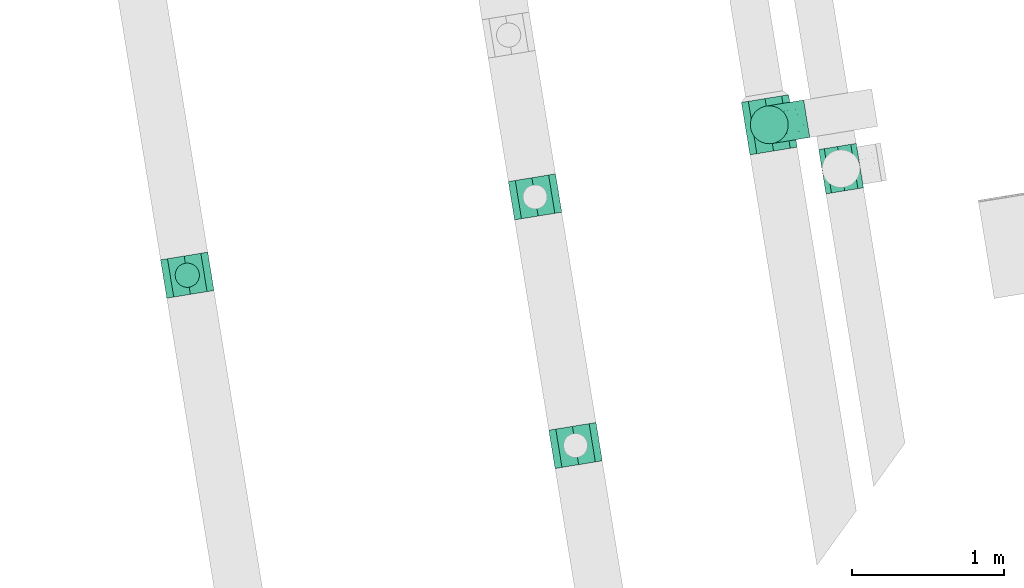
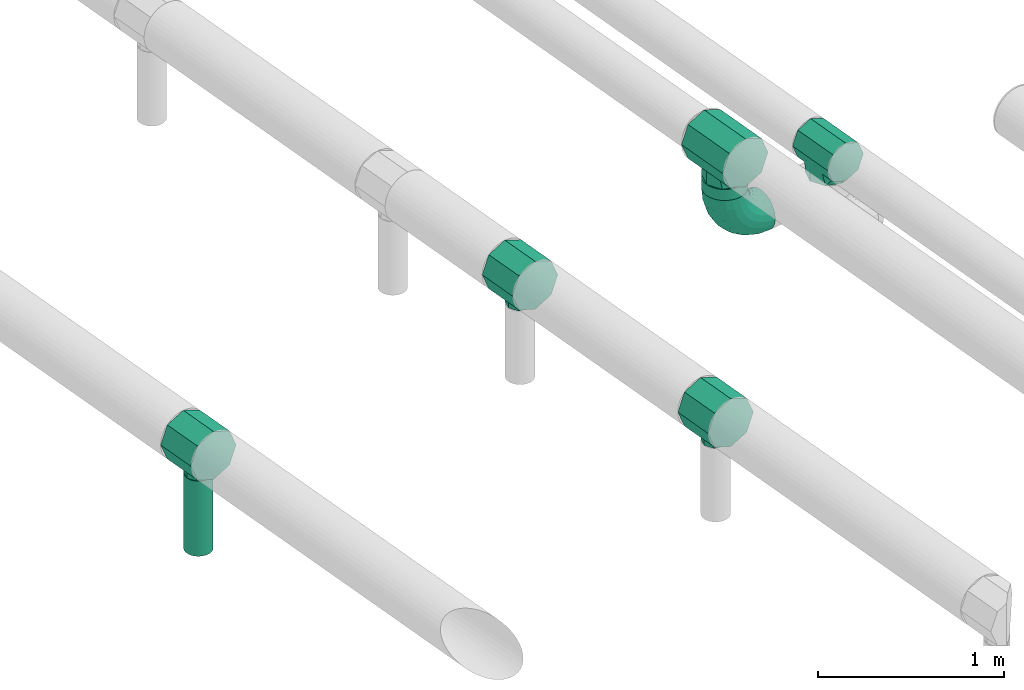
# One storey, part 3 of 15: 6 flow fittings, 2 flow segments.
"""IFC2X3 building model written with IfcOpenShell, lengths in millimetres."""

from ifc_helpers import new_model, entity, si_unit, converted_unit, derived_unit, direction, frame, origin, origin_with_axes, origin_2d_with_axis, place, context, subcontext, project, spatial, circle, extrude, faceted_brep, source, transform, mapped, material, type_object, element, save


model = new_model("IFC2X3")

# Units and contexts
model_context = context("Model", 3, precision=0.01, world=origin(), true_north=direction((6.12323399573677e-17, 1.0)))
plan_context = context("Plan", 3, precision=1e-05, world=origin_with_axes())
body_context = subcontext(model_context, "Body", "Model", "MODEL_VIEW")
ifc_project = project(units=[converted_unit("PLANEANGLEUNIT", "DEGREE", entity("IfcPositiveLengthMeasure", 0.0174532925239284), si_unit("PLANEANGLEUNIT", "RADIAN"), dimensions=[0, 0, 0, 0, 0, 0, 0]), si_unit("AREAUNIT", "SQUARE_METRE"), si_unit("LENGTHUNIT", "METRE", prefix="MILLI"), si_unit("MASSUNIT", "GRAM", prefix="KILO"), si_unit("POWERUNIT", "WATT"), si_unit("PRESSUREUNIT", "PASCAL", prefix="KILO"), si_unit("FORCEUNIT", "NEWTON", prefix="KILO"), si_unit("ELECTRICVOLTAGEUNIT", "VOLT"), si_unit("ELECTRICCURRENTUNIT", "AMPERE"), si_unit("THERMODYNAMICTEMPERATUREUNIT", "DEGREE_CELSIUS"), si_unit("TIMEUNIT", "SECOND"), si_unit("VOLUMEUNIT", "CUBIC_METRE"), derived_unit("LINEARVELOCITYUNIT", [(si_unit("LENGTHUNIT", "METRE"), 1), (si_unit("TIMEUNIT", "SECOND"), -1)]), derived_unit("VOLUMETRICFLOWRATEUNIT", [(si_unit("VOLUMEUNIT", "CUBIC_METRE"), 1), (si_unit("TIMEUNIT", "SECOND"), -1)]), derived_unit("THERMALTRANSMITTANCEUNIT", [(si_unit("POWERUNIT", "WATT"), 1), (si_unit("THERMODYNAMICTEMPERATUREUNIT", "KELVIN"), -1), (si_unit("AREAUNIT", "SQUARE_METRE"), -1)]), derived_unit("SOUNDPRESSUREUNIT", [(si_unit("PRESSUREUNIT", "PASCAL"), 1)])], contexts=[model_context, plan_context])

# Site, building, storey
site_placement = place(None, frame((5.09380697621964e-08, 5.80416781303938e-08, 0.0), z_axis=(0.0, 0.0, 1.0), x_axis=(-0.160806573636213, 0.986985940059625, 0.0)))
site = spatial("IfcSite", under=ifc_project, at=site_placement, Name="Default", CompositionType="ELEMENT")
building_placement = place(site_placement, frame((0.0, 0.0, 0.0), z_axis=(0.0, 0.0, 1.0), x_axis=(1.0, -2.77555756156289e-17, 0.0)))
building = spatial("IfcBuilding", under=site, at=building_placement, Name="Bygning (endres i Project Information)", CompositionType="ELEMENT")
storey_placement = place(building_placement, frame((0.0, 0.0, 51360.0000000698), z_axis=(0.0, 0.0, 1.0), x_axis=(1.0, -2.77555756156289e-17, 0.0)))
storey = spatial("IfcBuildingStorey", under=building, at=storey_placement, Name="H01-Nivå D+0,36", CompositionType="ELEMENT", Elevation=51360.0000000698)

# Flow fittings
ifc_material_1 = material(Name="DF_Material1")
duct_fitting_type_1 = type_object("IfcDuctFittingType", Name="Lindab TCPU:TCPU", PredefinedType="NOTDEFINED", material=ifc_material_1)
shared_shape_1 = source(origin(), body_context, "Body", "Brep", [
    faceted_brep([(56.5685425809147, 182.0, 56.5685425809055), (80.0000001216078, 182.0, 0.0), (56.568542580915, 182.0, -56.568542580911), (0.0, 182.0, -80.0000001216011), (-56.568542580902, 182.0, -56.5685425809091), (-80.0000001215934, 182.0, 0.0), (-56.5685425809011, 182.0, 56.5685425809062), (0.0, 182.0, 80.0000001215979), (-51.4669231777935, 145.103736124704, 61.2466802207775), (0.0, 135.66963571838, 80.0000001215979), (-80.0000001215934, 157.500000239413, 0.0), (-61.1597016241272, 148.817872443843, -51.5702522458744), (0.0, 135.669635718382, -80.0000001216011), (51.4669231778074, 145.103736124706, -61.2466802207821), (80.0000001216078, 157.500000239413, 0.0), (61.1652823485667, 148.820166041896, 51.5636330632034), (-128.0, 0.0, -157.500000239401), (-128.0, -111.369318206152, -111.369318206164), (-128.0, -157.500000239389, 0.0), (-128.0, -111.369318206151, 111.369318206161), (-128.0, 0.0, 157.500000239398), (-128.0, 111.369318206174, 111.36931820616), (-128.0, 134.434659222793, 55.6846591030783), (-128.0, 157.500000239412, 0.0), (-128.0, 134.434659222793, -55.6846591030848), (-128.0, 111.369318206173, -111.369318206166), (128.0, 157.500000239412, 0.0), (128.0, 134.434659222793, 55.6846591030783), (128.0, 111.369318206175, 111.36931820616), (128.0, 0.0, 157.500000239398), (128.0, -111.36931820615, 111.369318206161), (128.0, -157.500000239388, 0.0), (128.0, -111.369318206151, -111.369318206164), (128.0, 0.0, -157.500000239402), (128.0, 111.369318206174, -111.369318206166), (128.0, 134.434659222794, -55.6846591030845)], [[[0, 1, 2, 3, 4, 5, 6, 7]], [[7, 8, 9]], [[6, 8, 7]], [[5, 10, 6]], [[8, 6, 10]], [[4, 10, 5]], [[11, 10, 4]], [[4, 3, 11]], [[12, 11, 3]], [[3, 13, 12]], [[2, 13, 3]], [[1, 14, 2]], [[13, 2, 14]], [[0, 14, 1]], [[15, 14, 0]], [[0, 7, 15]], [[9, 15, 7]], [[16, 17, 18, 19, 20, 21, 22, 23, 24, 25]], [[26, 27, 28, 29, 30, 31, 32, 33, 34, 35]], [[30, 29, 20, 19]], [[18, 31, 30, 19]], [[18, 17, 32, 31]], [[16, 33, 32, 17]], [[25, 34, 33, 16]], [[12, 34, 25]], [[11, 12, 25]], [[12, 13, 34]], [[13, 14, 35]], [[26, 35, 14]], [[24, 23, 11, 25]], [[23, 10, 11]], [[35, 34, 13]], [[15, 26, 14]], [[8, 10, 22]], [[22, 21, 8]], [[15, 28, 27, 26]], [[28, 9, 21]], [[29, 28, 21, 20]], [[8, 21, 9]], [[10, 23, 22]], [[28, 15, 9]]]),
])
flow_fitting_1_placement = place(storey_placement, frame((999731.859892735, -343179.24363092, 3804.40000000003), z_axis=(-2.77555756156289e-17, -1.0, 0.0), x_axis=(-1.0, 2.77555756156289e-17, 0.0)))
element("IfcFlowFitting", 1, at=flow_fitting_1_placement, inside=storey, type_object=duct_fitting_type_1, material=ifc_material_1, Name="Lindab TCPU:TCPU", ObjectType="Lindab TCPU:TCPU", context=body_context, shape_type="MappedRepresentation", body=[
    mapped(shared_shape_1, transform((0.0, 0.0, 0.0), scale=1.0)),
])
duct_fitting_type_2 = type_object("IfcDuctFittingType", Name="Lindab TCPU:TCPU", PredefinedType="NOTDEFINED", material=ifc_material_1)
shared_shape_2 = source(origin(), body_context, "Body", "Brep", [
    faceted_brep([(-97.5961175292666, 0.0, -125.000000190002), (-44.4919847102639, 44.4919847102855, -116.813797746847), (0.0, 0.0, -125.000000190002), (-116.363856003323, 116.363856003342, -45.6558108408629), (-148.0, 106.694173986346, -44.1941738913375), (-125.000000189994, 125.000000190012, 0.0), (-148.0, 0.0, -125.000000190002), (-148.0, 88.3883477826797, -88.3883477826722), (-85.4880923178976, 85.4880923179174, -91.1964150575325), (-148.0, 125.000000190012, 0.0), (148.0, 106.694173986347, -44.1941738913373), (125.000000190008, 125.000000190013, 0.0), (148.0, 125.000000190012, 0.0), (-148.0, 106.694173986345, 44.1941738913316), (-110.210392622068, 110.210392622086, 58.9802458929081), (-97.5961244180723, 0.0, 125.000000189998), (-48.798062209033, 0.0, 125.000000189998), (0.0, 0.0, 125.000000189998), (-33.5365138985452, 33.5365138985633, 120.417200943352), (148.0, 106.694173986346, 44.1941738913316), (-148.0, 88.3883477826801, 88.388347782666), (-75.8331549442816, 75.8331549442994, 99.3696767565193), (-148.0, 0.0, 125.000000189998), (0.0, 150.0, -125.000000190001), (-88.3883477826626, 150.0, -88.3883477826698), (-106.694173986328, 150.0, -44.1941738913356), (-125.000000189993, 150.0, 0.0), (-106.694173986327, 150.0, 44.1941738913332), (-88.3883477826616, 150.0, 88.3883477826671), (0.0, 150.0, 125.000000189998), (88.3883477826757, 150.0, 88.388347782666), (106.694173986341, 150.0, 44.1941738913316), (125.000000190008, 150.0, 0.0), (106.694173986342, 150.0, -44.1941738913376), (88.3883477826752, 150.0, -88.3883477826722), (0.0, 48.7980713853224, 125.000000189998), (0.0, 97.5961191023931, 125.000000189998), (0.0, 97.5961234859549, -125.000000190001), (0.0, 48.7980562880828, -125.000000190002), (33.5365138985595, 33.5365138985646, -120.417200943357), (110.210392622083, 110.210392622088, -58.9802458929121), (75.8331549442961, 75.8331549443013, -99.3696767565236), (116.363856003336, 116.363856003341, 45.6558108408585), (44.4919847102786, 44.4919847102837, 116.813797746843), (85.4880923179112, 85.4880923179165, 91.1964150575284), (-148.0, -88.3883477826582, -88.3883477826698), (-148.0, -125.000000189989, 0.0), (-148.0, -88.3883477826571, 88.3883477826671), (148.0, 88.3883477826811, 88.388347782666), (148.0, 0.0, 125.000000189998), (148.0, -88.3883477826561, 88.3883477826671), (148.0, -125.000000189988, 0.0), (148.0, -88.3883477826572, -88.3883477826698), (148.0, 0.0, -125.000000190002), (148.0, 88.3883477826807, -88.3883477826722), (97.5961165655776, 0.0, 125.000000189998), (48.7980576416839, 0.0, -125.000000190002), (97.5961133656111, 0.0, -125.000000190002)], [[[0, 1, 2]], [[3, 4, 5]], [[6, 7, 0]], [[7, 8, 0]], [[4, 9, 5]], [[10, 11, 12]], [[1, 0, 8]], [[3, 7, 4]], [[8, 7, 3]], [[5, 13, 14]], [[15, 16, 17, 18]], [[13, 5, 9]], [[19, 12, 11]], [[20, 21, 14]], [[21, 22, 15]], [[13, 20, 14]], [[20, 22, 21]], [[15, 18, 21]], [[23, 24, 25, 26, 27, 28, 29, 30, 31, 32, 33, 34]], [[35, 36, 18, 17]], [[14, 27, 5]], [[28, 21, 29]], [[21, 36, 29]], [[27, 26, 5]], [[18, 36, 21]], [[14, 28, 27]], [[21, 28, 14]], [[5, 25, 3]], [[1, 37, 38, 2]], [[25, 5, 26]], [[24, 8, 3]], [[37, 24, 23]], [[25, 24, 3]], [[8, 24, 37]], [[37, 1, 8]], [[38, 37, 39, 2]], [[40, 33, 11]], [[34, 41, 23]], [[41, 37, 23]], [[33, 32, 11]], [[39, 37, 41]], [[40, 34, 33]], [[41, 34, 40]], [[11, 31, 42]], [[43, 36, 35, 17]], [[31, 11, 32]], [[30, 44, 42]], [[36, 30, 29]], [[31, 30, 42]], [[44, 30, 36]], [[36, 43, 44]], [[6, 45, 46, 47, 22, 20, 13, 9, 4, 7]], [[12, 19, 48, 49, 50, 51, 52, 53, 54, 10]], [[47, 50, 49, 55, 17, 16, 15, 22]], [[46, 51, 50, 47]], [[46, 45, 52, 51]], [[52, 45, 6, 0, 2, 56, 57, 53]], [[57, 39, 41]], [[54, 53, 41]], [[56, 2, 39, 57]], [[41, 53, 57]], [[10, 54, 40]], [[11, 10, 40]], [[41, 40, 54]], [[42, 48, 19]], [[43, 55, 44]], [[42, 44, 48]], [[48, 44, 55]], [[49, 48, 55]], [[55, 43, 17]], [[42, 19, 11]]]),
])
flow_fitting_2_placement = place(storey_placement, frame((999731.859892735, -347544.675938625, 3804.40000000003), z_axis=(-2.77555756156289e-17, -1.0, 0.0), x_axis=(-1.0, 2.77555756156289e-17, 0.0)))
element("IfcFlowFitting", 2, at=flow_fitting_2_placement, inside=storey, type_object=duct_fitting_type_2, material=ifc_material_1, Name="Lindab TCPU:TCPU", ObjectType="Lindab TCPU:TCPU", context=body_context, shape_type="MappedRepresentation", body=[
    mapped(shared_shape_2, transform((0.0, 0.0, 0.0), scale=1.0)),
])
duct_fitting_type_3 = type_object("IfcDuctFittingType", Name="Lindab TCPU:TCPU", PredefinedType="NOTDEFINED", material=ifc_material_1)
shared_shape_3 = source(origin(), body_context, "Body", "Brep", [
    faceted_brep([(80.0000001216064, -182.0, 0.0), (56.5685425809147, -182.0, 56.5685425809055), (0.0, -182.0, 80.0000001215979), (-56.5685425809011, -182.0, 56.5685425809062), (-80.0000001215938, -182.0, 0.0), (-56.568542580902, -182.0, -56.5685425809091), (0.0, -182.0, -80.0000001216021), (56.568542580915, -182.0, -56.568542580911), (-61.1652823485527, -148.820166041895, 51.5636330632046), (0.0, -135.66963571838, 80.0000001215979), (-80.0000001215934, -157.500000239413, 0.0), (-51.4607662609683, -145.101552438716, -61.2518534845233), (0.0, -135.669635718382, -80.0000001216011), (61.1652823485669, -148.820166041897, -51.5636330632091), (80.0000001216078, -157.500000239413, 0.0), (51.4669231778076, -145.103736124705, 61.2466802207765), (-128.0, -157.500000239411, 0.0), (-128.0, -134.434659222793, 55.6846591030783), (-128.0, -111.369318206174, 111.36931820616), (-128.0, 0.0, 157.500000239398), (-128.0, 111.369318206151, 111.369318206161), (-128.0, 157.500000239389, 0.0), (-128.0, 111.369318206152, -111.369318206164), (-128.0, 0.0, -157.500000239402), (-128.0, -111.369318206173, -111.369318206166), (-128.0, -134.434659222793, -55.6846591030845), (128.0, 0.0, -157.500000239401), (128.0, 111.369318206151, -111.369318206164), (128.0, 157.500000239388, 0.0), (128.0, 111.36931820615, 111.369318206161), (128.0, 0.0, 157.500000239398), (128.0, -111.369318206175, 111.36931820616), (128.0, -134.434659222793, 55.6846591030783), (128.0, -157.500000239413, 0.0), (128.0, -134.434659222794, -55.6846591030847), (128.0, -111.369318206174, -111.369318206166)], [[[0, 1, 2, 3, 4, 5, 6, 7]], [[2, 8, 3]], [[8, 2, 9]], [[10, 4, 3]], [[10, 3, 8]], [[10, 5, 4]], [[5, 10, 11]], [[11, 12, 6]], [[11, 6, 5]], [[6, 13, 7]], [[13, 6, 12]], [[14, 0, 7]], [[14, 7, 13]], [[14, 1, 0]], [[1, 14, 15]], [[15, 9, 2]], [[15, 2, 1]], [[16, 17, 18, 19, 20, 21, 22, 23, 24, 25]], [[26, 27, 28, 29, 30, 31, 32, 33, 34, 35]], [[20, 19, 30, 29]], [[29, 28, 21, 20]], [[28, 27, 22, 21]], [[27, 26, 23, 22]], [[26, 35, 24, 23]], [[24, 35, 12]], [[24, 12, 11]], [[35, 13, 12]], [[13, 33, 14]], [[33, 13, 35, 34]], [[10, 16, 25]], [[11, 25, 24]], [[10, 25, 11]], [[14, 32, 15]], [[16, 10, 8]], [[16, 8, 18, 17]], [[33, 32, 14]], [[9, 15, 31]], [[31, 15, 32]], [[19, 18, 31, 30]], [[31, 18, 9]], [[18, 8, 9]]]),
])
for number, where, z_axis, x_axis in (
    (3, (998212.558907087, -345524.100723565, 3804.29489743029), (2.77555756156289e-17, 1.0, 0.0), (-1.0, 2.77555756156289e-17, 0.0)),
    (4, (999872.558907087, -345524.100723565, 3804.29489743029), (2.77555756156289e-17, 1.0, 0.0), (-1.0, 2.77555756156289e-17, 0.0)),
):
    element("IfcFlowFitting", number, at=place(storey_placement, frame(where, z_axis=z_axis, x_axis=x_axis)), inside=storey, type_object=duct_fitting_type_3, material=ifc_material_1, Name="Lindab TCPU:TCPU", ObjectType="Lindab TCPU:TCPU", context=body_context, shape_type="MappedRepresentation", body=[
        mapped(shared_shape_3, transform((0.0, 0.0, 0.0), scale=1.0)),
    ])
duct_fitting_type_4 = type_object("IfcDuctFittingType", Name="Lindab TCPU:TCPU", PredefinedType="NOTDEFINED", material=ifc_material_1)
shared_shape_4 = source(origin(), body_context, "Body", "Brep", [
    faceted_brep([(125.000000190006, -182.0, 0.0), (88.3883477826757, -182.0, 88.388347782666), (0.0, -182.0, 125.000000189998), (-88.3883477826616, -182.0, 88.3883477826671), (-125.000000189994, -182.0, 0.0), (-88.3883477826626, -182.0, -88.3883477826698), (0.0, -182.0, -125.000000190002), (88.3883477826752, -182.0, -88.3883477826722), (-94.7906485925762, -134.783222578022, 81.4845567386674), (0.0, -95.8188396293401, 125.000000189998), (-125.000000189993, -157.500000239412, 0.0), (-109.895324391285, -146.141611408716, 40.7422783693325), (-102.490116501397, -141.156104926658, -48.0316624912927), (-79.9802328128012, -124.812209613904, -96.0633249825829), (0.0, -95.8188396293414, -125.000000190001), (94.7906485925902, -134.783222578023, -81.4845567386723), (125.000000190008, -157.500000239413, 0.0), (109.895324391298, -146.141611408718, -40.7422783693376), (102.486054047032, -141.153501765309, 48.0350445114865), (79.9721079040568, -124.807003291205, 96.0700890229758), (-175.0, -157.500000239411, 0.0), (-175.0, -134.434659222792, 55.6846591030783), (-175.0, -111.369318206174, 111.36931820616), (-175.0, 0.0, 157.500000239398), (-175.0, 111.369318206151, 111.369318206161), (-175.0, 157.500000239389, 0.0), (-175.0, 111.369318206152, -111.369318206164), (-175.0, 0.0, -157.500000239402), (-175.0, -111.369318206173, -111.369318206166), (-175.0, -134.434659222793, -55.6846591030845), (175.0, 0.0, -157.500000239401), (175.0, 111.369318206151, -111.369318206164), (175.0, 157.500000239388, 0.0), (175.0, 111.36931820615, 111.369318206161), (175.0, 0.0, 157.500000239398), (175.0, -111.369318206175, 111.36931820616), (175.0, -134.434659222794, 55.6846591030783), (175.0, -157.500000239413, 0.0), (175.0, -134.434659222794, -55.6846591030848), (175.0, -111.369318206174, -111.369318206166)], [[[0, 1, 2, 3, 4, 5, 6, 7]], [[2, 8, 3]], [[8, 2, 9]], [[10, 4, 3]], [[3, 8, 11, 10]], [[4, 10, 5]], [[5, 10, 12, 13]], [[13, 14, 6]], [[13, 6, 5]], [[6, 15, 7]], [[15, 6, 14]], [[16, 0, 7]], [[7, 15, 17, 16]], [[0, 16, 1]], [[1, 16, 18, 19]], [[19, 9, 2]], [[19, 2, 1]], [[20, 21, 22, 23, 24, 25, 26, 27, 28, 29]], [[30, 31, 32, 33, 34, 35, 36, 37, 38, 39]], [[23, 34, 33, 24]], [[33, 32, 25, 24]], [[32, 31, 26, 25]], [[31, 30, 27, 26]], [[30, 39, 14]], [[27, 14, 28]], [[14, 27, 30]], [[13, 28, 14]], [[14, 39, 15]], [[38, 17, 15]], [[17, 37, 16]], [[29, 13, 12]], [[20, 29, 12]], [[15, 39, 38]], [[37, 17, 38]], [[13, 29, 28]], [[20, 12, 10]], [[37, 18, 16]], [[8, 21, 11]], [[36, 19, 18]], [[11, 20, 10]], [[20, 11, 21]], [[36, 18, 37]], [[9, 19, 35]], [[35, 19, 36]], [[9, 35, 34]], [[22, 9, 23]], [[22, 8, 9]], [[23, 9, 34]], [[8, 22, 21]]]),
])
flow_fitting_3_placement = place(storey_placement, frame((1000093.18735498, -347124.100724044, 3804.29489743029), z_axis=(-2.77555756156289e-17, -1.0, 0.0), x_axis=(1.0, -2.77555756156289e-17, 0.0)))
element("IfcFlowFitting", 5, at=flow_fitting_3_placement, inside=storey, type_object=duct_fitting_type_4, material=ifc_material_1, Name="Lindab TCPU:TCPU", ObjectType="Lindab TCPU:TCPU", context=body_context, shape_type="MappedRepresentation", body=[
    mapped(shared_shape_4, transform((0.0, 0.0, 0.0), scale=1.0)),
])
ifc_material_2 = material(Name="3601.001 Avtrekk")
duct_fitting_type_5 = type_object("IfcDuctFittingType", Name="magicirc_elbow_full_radius_NOR:magicirc_elbow_full_radius_NOR", PredefinedType="NOTDEFINED", material=ifc_material_2)
shared_shape_5 = source(origin(), body_context, "Body", "Brep", [
    faceted_brep([(-166.554650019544, -115.597967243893, 0.0), (-167.916018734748, -109.633421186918, 38.6271243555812), (-250.000000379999, -118.882064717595, 38.6271243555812), (-250.000000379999, -125.00000019, 0.0), (-171.866864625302, -92.3236343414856, 73.473156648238), (-250.000000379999, -101.127124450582, 73.473156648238), (-178.020451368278, -65.3630092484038, 101.127124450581), (-250.000000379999, -73.4731566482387, 101.127124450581), (-185.774423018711, -31.3906397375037, 118.882064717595), (-250.000000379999, -38.6271243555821, 118.882064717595), (-194.369766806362, 6.26802196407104, 125.00000019), (-250.000000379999, 0.0, 125.00000019), (-202.965110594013, 43.9266836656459, 118.882064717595), (-250.000000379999, 38.6271243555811, 118.882064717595), (-210.719082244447, 77.8990531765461, 101.127124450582), (-250.000000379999, 73.4731566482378, 101.127124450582), (-216.872668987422, 104.859678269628, 73.4731566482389), (-250.000000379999, 101.127124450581, 73.4731566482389), (-220.823514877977, 122.169465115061, 38.6271243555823), (-250.000000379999, 118.882064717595, 38.6271243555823), (-222.184883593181, 128.134011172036, 0.0), (-250.000000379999, 125.00000019, 0.0), (-220.823514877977, 122.169465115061, -38.6271243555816), (-250.000000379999, 118.882064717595, -38.6271243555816), (-216.872668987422, 104.859678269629, -73.4731566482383), (-250.000000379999, 101.127124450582, -73.4731566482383), (-210.719082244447, 77.8990531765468, -101.127124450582), (-250.000000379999, 73.4731566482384, -101.127124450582), (-202.965110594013, 43.9266836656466, -118.882064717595), (-250.000000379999, 38.6271243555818, -118.882064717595), (-194.369766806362, 6.26802196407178, -125.00000019), (-250.000000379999, 0.0, -125.00000019), (-185.774423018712, -31.3906397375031, -118.882064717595), (-250.000000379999, -38.6271243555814, -118.882064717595), (-178.020451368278, -65.3630092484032, -101.127124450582), (-250.000000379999, -73.4731566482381, -101.127124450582), (-171.866864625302, -92.3236343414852, -73.4731566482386), (-250.000000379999, -101.127124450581, -73.4731566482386), (-167.916018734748, -109.633421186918, -38.627124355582), (-250.000000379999, -118.882064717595, -38.627124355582), (-87.2935979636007, -87.8633255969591, 0.0), (-89.9480706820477, -82.3512562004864, 38.6271243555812), (-97.6516505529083, -66.3546077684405, 73.473156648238), (-109.650257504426, -41.4392437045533, 101.127124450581), (-124.769384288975, -10.0440534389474, 118.882064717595), (-141.529065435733, 24.7577830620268, 125.00000019), (-158.288746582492, 59.5596195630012, 118.882064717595), (-173.407873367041, 90.9548098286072, 101.127124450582), (-185.406480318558, 115.870173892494, 73.4731566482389), (-193.110060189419, 131.866822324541, 38.6271243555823), (-195.764532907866, 137.378891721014, 0.0), (-193.110060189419, 131.866822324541, -38.6271243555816), (-185.406480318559, 115.870173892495, -73.4731566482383), (-173.407873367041, 90.9548098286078, -101.127124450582), (-158.288746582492, 59.5596195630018, -118.882064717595), (-141.529065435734, 24.7577830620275, -125.00000019), (-124.769384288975, -10.0440534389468, -118.882064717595), (-109.650257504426, -41.4392437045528, -101.127124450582), (-97.6516505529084, -66.3546077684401, -73.4731566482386), (-89.9480706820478, -82.3512562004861, -38.627124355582), (-16.1913243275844, -43.1868059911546, 0.0), (-20.0057947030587, -38.4036114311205, 38.6271243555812), (-31.0758188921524, -24.5222401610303, 73.473156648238), (-48.3177857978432, -2.90149751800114, 101.127124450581), (-70.0439315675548, 24.3422275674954, 118.882064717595), (-94.127549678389, 54.5421294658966, 125.00000019), (-118.211167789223, 84.7420313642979, 118.882064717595), (-139.937313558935, 111.985756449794, 101.127124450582), (-157.179280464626, 133.606499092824, 73.4731566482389), (-168.24930465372, 147.487870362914, 38.6271243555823), (-172.063775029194, 152.271064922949, 0.0), (-168.24930465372, 147.487870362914, -38.6271243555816), (-157.179280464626, 133.606499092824, -73.4731566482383), (-139.937313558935, 111.985756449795, -101.127124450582), (-118.211167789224, 84.7420313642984, -118.882064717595), (-94.1275496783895, 54.5421294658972, -125.00000019), (-70.0439315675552, 24.3422275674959, -118.882064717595), (-48.3177857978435, -2.90149751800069, -101.127124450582), (-31.0758188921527, -24.5222401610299, -73.4731566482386), (-20.0057947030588, -38.4036114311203, -38.627124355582), (43.1868059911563, 16.1913243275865, 0.0), (38.4036114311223, 20.0057947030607, 38.6271243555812), (24.522240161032, 31.0758188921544, 73.473156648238), (2.90149751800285, 48.3177857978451, 101.127124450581), (-24.3422275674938, 70.0439315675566, 118.882064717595), (-54.542129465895, 94.1275496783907, 125.00000019), (-84.7420313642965, 118.211167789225, 118.882064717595), (-111.985756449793, 139.937313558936, 101.127124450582), (-133.606499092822, 157.179280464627, 73.4731566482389), (-147.487870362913, 168.249304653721, 38.6271243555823), (-152.271064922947, 172.063775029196, 0.0), (-147.487870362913, 168.249304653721, -38.6271243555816), (-133.606499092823, 157.179280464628, -73.4731566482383), (-111.985756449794, 139.937313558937, -101.127124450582), (-84.742031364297, 118.211167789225, -118.882064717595), (-54.5421294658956, 94.1275496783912, -125.00000019), (-24.3422275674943, 70.043931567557, -118.882064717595), (2.9014975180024, 48.3177857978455, -101.127124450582), (24.5222401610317, 31.0758188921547, -73.4731566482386), (38.4036114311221, 20.0057947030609, -38.627124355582), (87.8633255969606, 87.2935979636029, 0.0), (82.3512562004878, 89.9480706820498, 38.6271243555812), (66.3546077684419, 97.6516505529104, 73.473156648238), (41.4392437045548, 109.650257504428, 101.127124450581), (10.0440534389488, 124.769384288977, 118.882064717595), (-24.7577830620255, 141.529065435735, 125.00000019), (-59.5596195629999, 158.288746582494, 118.882064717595), (-90.954809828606, 173.407873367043, 101.127124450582), (-115.870173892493, 185.40648031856, 73.4731566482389), (-131.86682232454, 193.110060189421, 38.6271243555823), (-137.378891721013, 195.764532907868, 0.0), (-131.86682232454, 193.110060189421, -38.6271243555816), (-115.870173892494, 185.40648031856, -73.4731566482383), (-90.9548098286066, 173.407873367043, -101.127124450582), (-59.5596195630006, 158.288746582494, -118.882064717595), (-24.7577830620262, 141.529065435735, -125.00000019), (10.0440534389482, 124.769384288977, -118.882064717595), (41.4392437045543, 109.650257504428, -101.127124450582), (66.3546077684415, 97.6516505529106, -73.4731566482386), (82.3512562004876, 89.9480706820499, -38.627124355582), (115.597967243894, 166.554650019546, 0.0), (109.633421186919, 167.91601873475, 38.6271243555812), (92.3236343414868, 171.866864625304, 73.473156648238), (65.3630092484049, 178.02045136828, 101.127124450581), (31.3906397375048, 185.774423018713, 118.882064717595), (-6.26802196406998, 194.369766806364, 125.00000019), (-43.9266836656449, 202.965110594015, 118.882064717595), (-77.8990531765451, 210.719082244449, 101.127124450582), (-104.859678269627, 216.872668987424, 73.4731566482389), (-122.16946511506, 220.823514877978, 38.6271243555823), (-128.134011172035, 222.184883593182, 0.0), (-122.16946511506, 220.823514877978, -38.6271243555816), (-104.859678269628, 216.872668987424, -73.4731566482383), (-77.8990531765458, 210.719082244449, -101.127124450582), (-43.9266836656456, 202.965110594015, -118.882064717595), (-6.26802196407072, 194.369766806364, -125.00000019), (31.3906397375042, 185.774423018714, -118.882064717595), (65.3630092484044, 178.02045136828, -101.127124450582), (92.3236343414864, 171.866864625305, -73.4731566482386), (109.633421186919, 167.91601873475, -38.627124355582), (125.000000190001, 250.000000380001, 0.0), (118.882064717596, 250.000000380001, 38.6271243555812), (101.127124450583, 250.000000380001, 73.473156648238), (73.4731566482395, 250.000000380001, 101.127124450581), (38.6271243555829, 250.000000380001, 118.882064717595), (0.0, 250.000000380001, 125.00000019), (-38.6271243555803, 250.000000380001, 118.882064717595), (-73.473156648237, 250.000000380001, 101.127124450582), (-101.12712445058, 250.000000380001, 73.4731566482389), (-118.882064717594, 250.000000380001, 38.6271243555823), (-125.000000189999, 250.000000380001, 0.0), (-118.882064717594, 250.000000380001, -38.6271243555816), (-101.127124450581, 250.000000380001, -73.4731566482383), (-73.4731566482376, 250.000000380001, -101.127124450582), (-38.627124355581, 250.000000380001, -118.882064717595), (0.0, 250.000000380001, -125.00000019), (38.6271243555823, 250.000000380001, -118.882064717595), (73.473156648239, 250.000000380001, -101.127124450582), (101.127124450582, 250.000000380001, -73.4731566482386), (118.882064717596, 250.000000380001, -38.627124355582)], [[[0, 1, 2, 3]], [[1, 4, 5, 2]], [[4, 6, 7, 5]], [[6, 8, 9, 7]], [[8, 10, 11, 9]], [[10, 12, 13, 11]], [[12, 14, 15, 13]], [[14, 16, 17, 15]], [[16, 18, 19, 17]], [[18, 20, 21, 19]], [[20, 22, 23, 21]], [[22, 24, 25, 23]], [[24, 26, 27, 25]], [[26, 28, 29, 27]], [[28, 30, 31, 29]], [[30, 32, 33, 31]], [[32, 34, 35, 33]], [[34, 36, 37, 35]], [[36, 38, 39, 37]], [[38, 0, 3, 39]], [[40, 41, 1, 0]], [[41, 42, 4, 1]], [[42, 43, 6, 4]], [[43, 44, 8, 6]], [[44, 45, 10, 8]], [[45, 46, 12, 10]], [[46, 47, 14, 12]], [[47, 48, 16, 14]], [[48, 49, 18, 16]], [[49, 50, 20, 18]], [[50, 51, 22, 20]], [[51, 52, 24, 22]], [[52, 53, 26, 24]], [[53, 54, 28, 26]], [[54, 55, 30, 28]], [[55, 56, 32, 30]], [[56, 57, 34, 32]], [[57, 58, 36, 34]], [[58, 59, 38, 36]], [[59, 40, 0, 38]], [[60, 61, 41, 40]], [[61, 62, 42, 41]], [[62, 63, 43, 42]], [[63, 64, 44, 43]], [[64, 65, 45, 44]], [[65, 66, 46, 45]], [[66, 67, 47, 46]], [[67, 68, 48, 47]], [[68, 69, 49, 48]], [[69, 70, 50, 49]], [[70, 71, 51, 50]], [[71, 72, 52, 51]], [[72, 73, 53, 52]], [[73, 74, 54, 53]], [[74, 75, 55, 54]], [[75, 76, 56, 55]], [[76, 77, 57, 56]], [[77, 78, 58, 57]], [[78, 79, 59, 58]], [[79, 60, 40, 59]], [[80, 81, 61, 60]], [[81, 82, 62, 61]], [[82, 83, 63, 62]], [[83, 84, 64, 63]], [[84, 85, 65, 64]], [[85, 86, 66, 65]], [[86, 87, 67, 66]], [[87, 88, 68, 67]], [[88, 89, 69, 68]], [[89, 90, 70, 69]], [[90, 91, 71, 70]], [[91, 92, 72, 71]], [[92, 93, 73, 72]], [[93, 94, 74, 73]], [[94, 95, 75, 74]], [[95, 96, 76, 75]], [[96, 97, 77, 76]], [[97, 98, 78, 77]], [[98, 99, 79, 78]], [[99, 80, 60, 79]], [[100, 101, 81, 80]], [[101, 102, 82, 81]], [[102, 103, 83, 82]], [[103, 104, 84, 83]], [[104, 105, 85, 84]], [[105, 106, 86, 85]], [[106, 107, 87, 86]], [[107, 108, 88, 87]], [[108, 109, 89, 88]], [[109, 110, 90, 89]], [[110, 111, 91, 90]], [[111, 112, 92, 91]], [[112, 113, 93, 92]], [[113, 114, 94, 93]], [[114, 115, 95, 94]], [[115, 116, 96, 95]], [[116, 117, 97, 96]], [[117, 118, 98, 97]], [[118, 119, 99, 98]], [[119, 100, 80, 99]], [[120, 121, 101, 100]], [[121, 122, 102, 101]], [[122, 123, 103, 102]], [[123, 124, 104, 103]], [[124, 125, 105, 104]], [[125, 126, 106, 105]], [[126, 127, 107, 106]], [[127, 128, 108, 107]], [[128, 129, 109, 108]], [[129, 130, 110, 109]], [[130, 131, 111, 110]], [[131, 132, 112, 111]], [[132, 133, 113, 112]], [[133, 134, 114, 113]], [[134, 135, 115, 114]], [[135, 136, 116, 115]], [[136, 137, 117, 116]], [[137, 138, 118, 117]], [[138, 139, 119, 118]], [[139, 120, 100, 119]], [[140, 141, 121, 120]], [[141, 142, 122, 121]], [[142, 143, 123, 122]], [[143, 144, 124, 123]], [[144, 145, 125, 124]], [[145, 146, 126, 125]], [[146, 147, 127, 126]], [[147, 148, 128, 127]], [[148, 149, 129, 128]], [[149, 150, 130, 129]], [[150, 151, 131, 130]], [[151, 152, 132, 131]], [[152, 153, 133, 132]], [[153, 154, 134, 133]], [[154, 155, 135, 134]], [[155, 156, 136, 135]], [[156, 157, 137, 136]], [[157, 158, 138, 137]], [[158, 159, 139, 138]], [[159, 140, 120, 139]], [[3, 2, 5, 7, 9, 11, 13, 15, 17, 19, 21, 23, 25, 27, 29, 31, 33, 35, 37, 39]], [[159, 158, 157, 156, 155, 154, 153, 152, 151, 150, 149, 148, 147, 146, 145, 144, 143, 142, 141, 140]]]),
])
flow_fitting_4_placement = place(storey_placement, frame((1000093.18735498, -347124.100724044, 3300.0), z_axis=(-1.0, 2.77555756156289e-17, 0.0), x_axis=(0.0, 0.0, -1.0)))
element("IfcFlowFitting", 6, at=flow_fitting_4_placement, inside=storey, type_object=duct_fitting_type_5, material=ifc_material_2, Name="magicirc_elbow_full_radius_NOR:magicirc_elbow_full_radius_NOR", ObjectType="magicirc_elbow_full_radius_NOR:magicirc_elbow_full_radius_NOR", context=body_context, shape_type="MappedRepresentation", body=[
    mapped(shared_shape_5, transform((0.0, 0.0, 0.0), scale=1.0)),
])

# Flow segments
ifc_material_3 = material(Name="3601.001 Tilluft")
duct_segment_type = type_object("IfcDuctSegmentType", Name="Round Duct:Sirkulær kanal", PredefinedType="NOTDEFINED", material=ifc_material_3)
flow_segment_1_placement = place(storey_placement, frame((0.0, 0.0, 0.0), z_axis=(0.0, 0.0, 1.0), x_axis=(1.0, -2.77555756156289e-17, 0.0)))
element("IfcFlowSegment", 7, at=flow_segment_1_placement, inside=storey, type_object=duct_segment_type, Name="Round Duct:Sirkulær kanal", ObjectType="Round Duct:Sirkulær kanal", context=body_context, shape_type="SweptSolid", body=[
    extrude(circle(Radius=80.0000001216, at=origin_2d_with_axis()), frame((999731.859892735, -343179.24363092, 3130.00000020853), z_axis=(0.0, 0.0, 1.0), x_axis=(0.0, 1.0, 0.0)), (0.0, 0.0, 1.0), 492.399999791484),
])
flow_segment_2_placement = place(storey_placement, frame((0.0, 0.0, 0.0), z_axis=(0.0, 0.0, 1.0), x_axis=(1.0, -2.77555756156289e-17, 0.0)))
element("IfcFlowSegment", 8, at=flow_segment_2_placement, inside=storey, type_object=duct_segment_type, Name="Round Duct:Sirkulær kanal", ObjectType="Round Duct:Sirkulær kanal", context=body_context, shape_type="SweptSolid", body=[
    extrude(circle(Radius=125.00000019, at=origin_2d_with_axis()), frame((1000093.18735498, -347124.100724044, 3550.00000038), z_axis=(0.0, 0.0, 1.0), x_axis=(0.0, -1.0, 0.0)), (0.0, 0.0, 1.0), 72.2948970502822),
])

save(model, "model.ifc")
